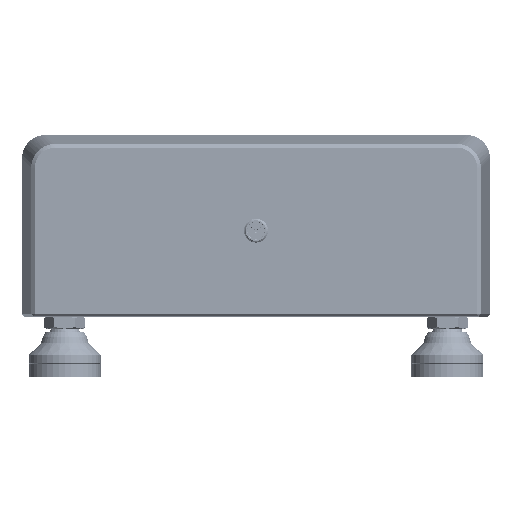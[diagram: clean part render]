
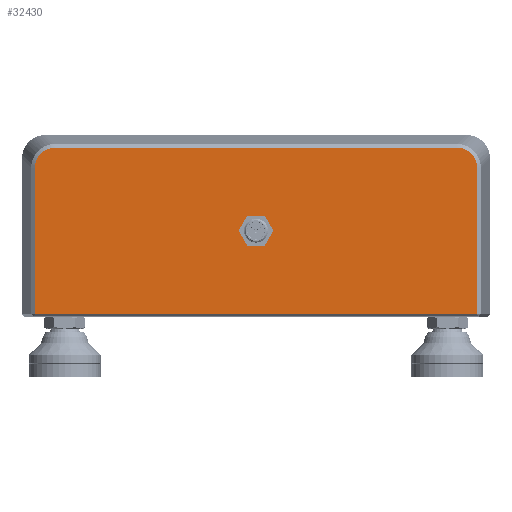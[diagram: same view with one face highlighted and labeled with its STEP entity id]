
A CAD part, top view. The second image highlights one B-rep face of the part: STEP entity #32430.
In plain terms, the highlighted planar face has unit normal (0, 0, 1).
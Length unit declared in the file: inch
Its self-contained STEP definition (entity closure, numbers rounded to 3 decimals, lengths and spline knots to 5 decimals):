
#864 = CIRCLE ( 'NONE', #54072, 0.1255 ) ;
#1231 = DIRECTION ( 'NONE',  ( 1., 0., 0. ) ) ;
#1296 = DIRECTION ( 'NONE',  ( 1., 0., 0. ) ) ;
#3071 = VECTOR ( 'NONE', #38643, 39.37008 ) ;
#5587 = CARTESIAN_POINT ( 'NONE',  ( 2.85985, 5.03241, 2.87625 ) ) ;
#6404 = VERTEX_POINT ( 'NONE', #84872 ) ;
#8256 = ORIENTED_EDGE ( 'NONE', *, *, #109280, .T. ) ;
#8413 = CARTESIAN_POINT ( 'NONE',  ( -1.66134, 4.87727, 2.87625 ) ) ;
#9256 = ORIENTED_EDGE ( 'NONE', *, *, #86444, .F. ) ;
#10371 = LINE ( 'NONE', #149768, #222113 ) ;
#12139 = B_SPLINE_CURVE_WITH_KNOTS ( 'NONE', 3,
 ( #201398, #20424, #221617, #220416, #129965, #202592, #21575, #166815, #8413, #225099 ),
 .UNSPECIFIED., .F., .F.,
 ( 4, 2, 2, 2, 4 ),
 ( 0., 0.25, 0.5, 0.75, 1. ),
 .UNSPECIFIED. ) ;
#13111 = CARTESIAN_POINT ( 'NONE',  ( 2.75439, 5.05865, 2.87625 ) ) ;
#20424 = CARTESIAN_POINT ( 'NONE',  ( -1.4799, 5.05865, 2.87625 ) ) ;
#21575 = CARTESIAN_POINT ( 'NONE',  ( -1.6351, 4.95518, 2.87625 ) ) ;
#22441 = CARTESIAN_POINT ( 'NONE',  ( 2.96331, 3.32357, 2.87625 ) ) ;
#25478 = CARTESIAN_POINT ( 'NONE',  ( 0.65099, 4.24357, 2.87625 ) ) ;
#26610 = DIRECTION ( 'NONE',  ( 0., 0., 1. ) ) ;
#32430 = ADVANCED_FACE ( 'NONE', ( #94683, #75641 ), #148164, .F. ) ;
#35027 = EDGE_CURVE ( 'NONE', #6404, #162954, #65487, .T. ) ;
#37315 = AXIS2_PLACEMENT_3D ( 'NONE', #196240, #88045, #233224 ) ;
#37694 = AXIS2_PLACEMENT_3D ( 'NONE', #25478, #135034, #152865 ) ;
#38643 = DIRECTION ( 'NONE',  ( 1., 0., 0. ) ) ;
#38971 = CARTESIAN_POINT ( 'NONE',  ( 2.80938, 5.05322, 2.87625 ) ) ;
#42409 = ORIENTED_EDGE ( 'NONE', *, *, #35027, .F. ) ;
#43026 = CARTESIAN_POINT ( 'NONE',  ( 0.70965, 4.08016, 2.87625 ) ) ;
#44631 = VERTEX_POINT ( 'NONE', #22441 ) ;
#46075 = VERTEX_POINT ( 'NONE', #94801 ) ;
#48546 = VERTEX_POINT ( 'NONE', #55350 ) ;
#52547 = CARTESIAN_POINT ( 'NONE',  ( 0.58349, 4.09811, 2.87625 ) ) ;
#54072 = AXIS2_PLACEMENT_3D ( 'NONE', #144571, #58785, #113646 ) ;
#55322 = CARTESIAN_POINT ( 'NONE',  ( 0.65099, 3.32357, 2.87625 ) ) ;
#55350 = CARTESIAN_POINT ( 'NONE',  ( -1.45242, 5.05865, 2.87625 ) ) ;
#56792 = CARTESIAN_POINT ( 'NONE',  ( 2.93708, 4.95519, 2.87625 ) ) ;
#57482 = VERTEX_POINT ( 'NONE', #130301 ) ;
#57554 = VERTEX_POINT ( 'NONE', #95823 ) ;
#58010 = CARTESIAN_POINT ( 'NONE',  ( 2.75439, 5.05865, 2.87625 ) ) ;
#58785 = DIRECTION ( 'NONE',  ( 0., 0., 1. ) ) ;
#60450 = DIRECTION ( 'NONE',  ( -1., 0., 0. ) ) ;
#61783 = CARTESIAN_POINT ( 'NONE',  ( 2.96331, 4.24357, 2.87625 ) ) ;
#63594 = CARTESIAN_POINT ( 'NONE',  ( 2.95788, 4.90471, 2.87625 ) ) ;
#65487 = CIRCLE ( 'NONE', #118857, 0.02 ) ;
#69585 = EDGE_CURVE ( 'NONE', #127041, #48546, #10371, .T. ) ;
#75641 = FACE_OUTER_BOUND ( 'NONE', #111835, .T. ) ;
#78383 = EDGE_CURVE ( 'NONE', #126890, #6404, #176991, .T. ) ;
#79788 = CARTESIAN_POINT ( 'NONE',  ( 0.71849, 4.09811, 2.87625 ) ) ;
#80871 = EDGE_CURVE ( 'NONE', #48546, #131600, #12139, .T. ) ;
#82107 = CARTESIAN_POINT ( 'NONE',  ( -1.66134, 4.84972, 2.87625 ) ) ;
#84872 = CARTESIAN_POINT ( 'NONE',  ( 0.73849, 4.09811, 2.87625 ) ) ;
#86444 = EDGE_CURVE ( 'NONE', #57554, #179685, #864, .T. ) ;
#88045 = DIRECTION ( 'NONE',  ( 0., 0., 1. ) ) ;
#88290 = EDGE_CURVE ( 'NONE', #131600, #216338, #95546, .T. ) ;
#91523 = CARTESIAN_POINT ( 'NONE',  ( 2.96331, 4.87721, 2.87625 ) ) ;
#94654 = ORIENTED_EDGE ( 'NONE', *, *, #78383, .F. ) ;
#94683 = FACE_BOUND ( 'NONE', #137351, .T. ) ;
#94801 = CARTESIAN_POINT ( 'NONE',  ( 2.96331, 4.84972, 2.87625 ) ) ;
#95016 = CARTESIAN_POINT ( 'NONE',  ( 2.96331, 4.84972, 2.87625 ) ) ;
#95546 = LINE ( 'NONE', #226327, #229547 ) ;
#95674 = CARTESIAN_POINT ( 'NONE',  ( 0.73828, 4.10094, 2.87625 ) ) ;
#95823 = CARTESIAN_POINT ( 'NONE',  ( 0.52549, 4.19111, 2.87625 ) ) ;
#98774 = ORIENTED_EDGE ( 'NONE', *, *, #69585, .T. ) ;
#98996 = EDGE_CURVE ( 'NONE', #179685, #187146, #124038, .T. ) ;
#105168 = CARTESIAN_POINT ( 'NONE',  ( 0.59232, 4.08016, 2.87625 ) ) ;
#109280 = EDGE_CURVE ( 'NONE', #46075, #127041, #173031, .T. ) ;
#111835 = EDGE_LOOP ( 'NONE', ( #178481, #185812, #181145, #165428, #8256, #98774 ) ) ;
#113646 = DIRECTION ( 'NONE',  ( 1., 0., 0. ) ) ;
#115293 = ORIENTED_EDGE ( 'NONE', *, *, #188802, .F. ) ;
#115758 = DIRECTION ( 'NONE',  ( 0., -1., 0. ) ) ;
#116657 = DIRECTION ( 'NONE',  ( 1., 0., 0. ) ) ;
#118857 = AXIS2_PLACEMENT_3D ( 'NONE', #186189, #26610, #224275 ) ;
#124038 = CIRCLE ( 'NONE', #127750, 0.02 ) ;
#126890 = VERTEX_POINT ( 'NONE', #43026 ) ;
#127041 = VERTEX_POINT ( 'NONE', #13111 ) ;
#127750 = AXIS2_PLACEMENT_3D ( 'NONE', #52547, #200136, #1296 ) ;
#128235 = ORIENTED_EDGE ( 'NONE', *, *, #197025, .F. ) ;
#129165 = LINE ( 'NONE', #55322, #3071 ) ;
#129406 = VECTOR ( 'NONE', #186771, 39.37008 ) ;
#129965 = CARTESIAN_POINT ( 'NONE',  ( -1.58111, 5.01692, 2.87625 ) ) ;
#130301 = CARTESIAN_POINT ( 'NONE',  ( 0.77649, 4.19111, 2.87625 ) ) ;
#130986 = CARTESIAN_POINT ( 'NONE',  ( 0.59232, 4.08016, 2.87625 ) ) ;
#131600 = VERTEX_POINT ( 'NONE', #82107 ) ;
#135034 = DIRECTION ( 'NONE',  ( 0., 0., -1. ) ) ;
#137244 = VECTOR ( 'NONE', #1231, 39.37008 ) ;
#137351 = EDGE_LOOP ( 'NONE', ( #214881, #9256, #115293, #233068, #42409, #94654, #128235 ) ) ;
#140447 = EDGE_CURVE ( 'NONE', #44631, #46075, #187962, .T. ) ;
#144571 = CARTESIAN_POINT ( 'NONE',  ( 0.65099, 4.19111, 2.87625 ) ) ;
#148164 = PLANE ( 'NONE',  #37694 ) ;
#149768 = CARTESIAN_POINT ( 'NONE',  ( 0.65099, 5.05865, 2.87625 ) ) ;
#152865 = DIRECTION ( 'NONE',  ( -1., 0., 0. ) ) ;
#162954 = VERTEX_POINT ( 'NONE', #95674 ) ;
#163999 = CARTESIAN_POINT ( 'NONE',  ( 2.88309, 5.01693, 2.87625 ) ) ;
#164344 = LINE ( 'NONE', #130986, #137244 ) ;
#165237 = AXIS2_PLACEMENT_3D ( 'NONE', #174269, #192147, #214692 ) ;
#165428 = ORIENTED_EDGE ( 'NONE', *, *, #140447, .T. ) ;
#166815 = CARTESIAN_POINT ( 'NONE',  ( -1.65591, 4.90471, 2.87625 ) ) ;
#173031 = B_SPLINE_CURVE_WITH_KNOTS ( 'NONE', 3,
 ( #95016, #91523, #63594, #56792, #186549, #163999, #5587, #38971, #200924, #58010 ),
 .UNSPECIFIED., .F., .F.,
 ( 4, 2, 2, 2, 4 ),
 ( 0., 0.25, 0.5, 0.75, 1. ),
 .UNSPECIFIED. ) ;
#174269 = CARTESIAN_POINT ( 'NONE',  ( 0.65099, 4.19111, 2.87625 ) ) ;
#174312 = CIRCLE ( 'NONE', #37315, 0.1255 ) ;
#176991 = CIRCLE ( 'NONE', #218821, 0.02 ) ;
#178481 = ORIENTED_EDGE ( 'NONE', *, *, #80871, .T. ) ;
#179685 = VERTEX_POINT ( 'NONE', #222354 ) ;
#180342 = CIRCLE ( 'NONE', #165237, 0.1255 ) ;
#181145 = ORIENTED_EDGE ( 'NONE', *, *, #212191, .T. ) ;
#184507 = DIRECTION ( 'NONE',  ( 0., 0., 1. ) ) ;
#185812 = ORIENTED_EDGE ( 'NONE', *, *, #88290, .T. ) ;
#186189 = CARTESIAN_POINT ( 'NONE',  ( 0.71849, 4.09811, 2.87625 ) ) ;
#186549 = CARTESIAN_POINT ( 'NONE',  ( 2.92159, 4.97842, 2.87625 ) ) ;
#186771 = DIRECTION ( 'NONE',  ( 0., 1., 0. ) ) ;
#187146 = VERTEX_POINT ( 'NONE', #105168 ) ;
#187962 = LINE ( 'NONE', #61783, #129406 ) ;
#188802 = EDGE_CURVE ( 'NONE', #57482, #57554, #174312, .T. ) ;
#192147 = DIRECTION ( 'NONE',  ( 0., 0., 1. ) ) ;
#196240 = CARTESIAN_POINT ( 'NONE',  ( 0.65099, 4.19111, 2.87625 ) ) ;
#197025 = EDGE_CURVE ( 'NONE', #187146, #126890, #164344, .T. ) ;
#200136 = DIRECTION ( 'NONE',  ( 0., 0., 1. ) ) ;
#200924 = CARTESIAN_POINT ( 'NONE',  ( 2.78193, 5.05865, 2.87625 ) ) ;
#201249 = EDGE_CURVE ( 'NONE', #162954, #57482, #180342, .T. ) ;
#201398 = CARTESIAN_POINT ( 'NONE',  ( -1.45242, 5.05865, 2.87625 ) ) ;
#202592 = CARTESIAN_POINT ( 'NONE',  ( -1.61962, 4.97842, 2.87625 ) ) ;
#203410 = CARTESIAN_POINT ( 'NONE',  ( -1.66134, 3.32357, 2.87625 ) ) ;
#212191 = EDGE_CURVE ( 'NONE', #216338, #44631, #129165, .T. ) ;
#214692 = DIRECTION ( 'NONE',  ( 1., 0., 0. ) ) ;
#214881 = ORIENTED_EDGE ( 'NONE', *, *, #98996, .F. ) ;
#216338 = VERTEX_POINT ( 'NONE', #203410 ) ;
#218821 = AXIS2_PLACEMENT_3D ( 'NONE', #79788, #184507, #116657 ) ;
#220416 = CARTESIAN_POINT ( 'NONE',  ( -1.55788, 5.03242, 2.87625 ) ) ;
#221617 = CARTESIAN_POINT ( 'NONE',  ( -1.5074, 5.05321, 2.87625 ) ) ;
#222113 = VECTOR ( 'NONE', #60450, 39.37008 ) ;
#222354 = CARTESIAN_POINT ( 'NONE',  ( 0.56369, 4.10094, 2.87625 ) ) ;
#224275 = DIRECTION ( 'NONE',  ( 1., 0., 0. ) ) ;
#225099 = CARTESIAN_POINT ( 'NONE',  ( -1.66134, 4.84972, 2.87625 ) ) ;
#226327 = CARTESIAN_POINT ( 'NONE',  ( -1.66134, 4.24357, 2.87625 ) ) ;
#229547 = VECTOR ( 'NONE', #115758, 39.37008 ) ;
#233068 = ORIENTED_EDGE ( 'NONE', *, *, #201249, .F. ) ;
#233224 = DIRECTION ( 'NONE',  ( 1., 0., 0. ) ) ;
